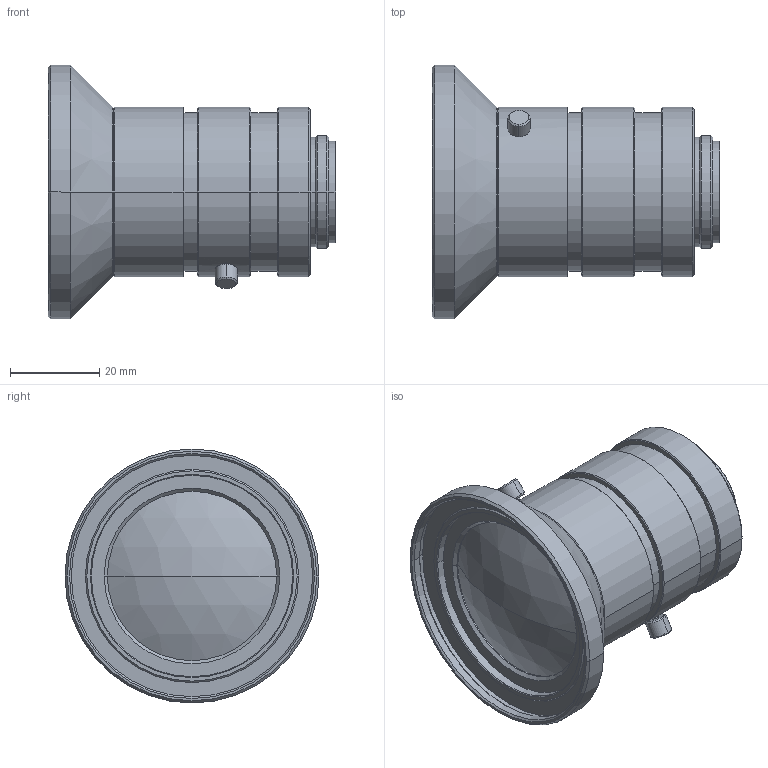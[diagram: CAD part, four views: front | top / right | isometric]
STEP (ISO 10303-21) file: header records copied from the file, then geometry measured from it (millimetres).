
FILE_DESCRIPTION (( 'STEP AP203' ), '1' );
FILE_NAME ('VS-0814H1.STEP', '2013-12-03T02:29:17', ( 'VS Technology' ), ( '' ), 'SwSTEP 2.0', 'SolidWorks 2012', '' );
FILE_SCHEMA (( 'CONFIG_CONTROL_DESIGN' ));
Length unit declared in the file: millimetre
Products named in the file (1): VS-0814H1
Bounding box: 64.6 x 57 x 57 mm (x, y, z)
Volume: 72143.4 mm3; surface area: 14225.9 mm2
Topology: 1 solids, 1 shells, 110 faces, 218 edges, 128 vertices
Faces by surface type: cone 48, cylinder 40, plane 18, sphere 4
Entity records: 2963 total; most frequent: DIRECTION 562, CARTESIAN_POINT 519, ORIENTED_EDGE 436, AXIS2_PLACEMENT_3D 237, EDGE_CURVE 218, EDGE_LOOP 128, VERTEX_POINT 128, CIRCLE 126
